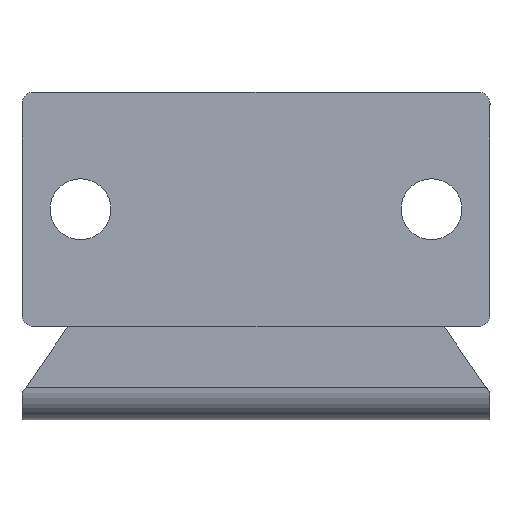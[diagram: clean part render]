
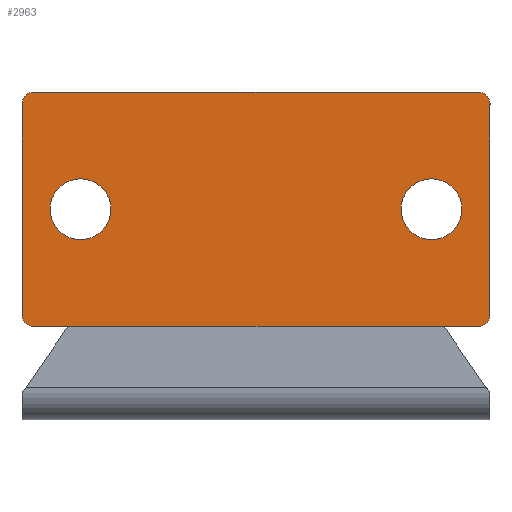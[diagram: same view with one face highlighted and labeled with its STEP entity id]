
A CAD part, left-side view. The second image highlights one B-rep face of the part: STEP entity #2963.
In plain terms, the highlighted planar face has unit normal (-1, 0, 0).
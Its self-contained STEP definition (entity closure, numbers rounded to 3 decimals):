
#10 = EDGE_CURVE ( 'NONE', #2245, #1202, #1127, .T. ) ;
#62 = CARTESIAN_POINT ( 'NONE',  ( -27.681, 243.543, 219.199 ) ) ;
#111 = CARTESIAN_POINT ( 'NONE',  ( -27.681, 246.143, 219.199 ) ) ;
#119 = ORIENTED_EDGE ( 'NONE', *, *, #10, .T. ) ;
#209 = AXIS2_PLACEMENT_3D ( 'NONE', #415, #1963, #1441 ) ;
#280 = CARTESIAN_POINT ( 'NONE',  ( -27.681, 242.143, 209.199 ) ) ;
#297 = CARTESIAN_POINT ( 'NONE',  ( -27.681, 241.143, 228.199 ) ) ;
#301 = EDGE_CURVE ( 'NONE', #733, #1976, #2960, .T. ) ;
#325 = DIRECTION ( 'NONE',  ( 1., 0., 0. ) ) ;
#387 = CARTESIAN_POINT ( 'NONE',  ( -27.681, 281.143, 228.199 ) ) ;
#392 = EDGE_CURVE ( 'NONE', #2818, #477, #2315, .T. ) ;
#395 = VERTEX_POINT ( 'NONE', #3285 ) ;
#407 = EDGE_CURVE ( 'NONE', #2908, #733, #2204, .T. ) ;
#415 = CARTESIAN_POINT ( 'NONE',  ( -27.681, 276.143, 219.199 ) ) ;
#438 = FACE_BOUND ( 'NONE', #2273, .T. ) ;
#457 = EDGE_CURVE ( 'NONE', #395, #3264, #958, .T. ) ;
#475 = EDGE_CURVE ( 'NONE', #1202, #2245, #2827, .T. ) ;
#477 = VERTEX_POINT ( 'NONE', #2003 ) ;
#486 = AXIS2_PLACEMENT_3D ( 'NONE', #3144, #1009, #744 ) ;
#500 = ORIENTED_EDGE ( 'NONE', *, *, #457, .T. ) ;
#520 = ORIENTED_EDGE ( 'NONE', *, *, #475, .T. ) ;
#522 = ORIENTED_EDGE ( 'NONE', *, *, #705, .F. ) ;
#594 = ORIENTED_EDGE ( 'NONE', *, *, #392, .F. ) ;
#630 = DIRECTION ( 'NONE',  ( 0., 1., 0. ) ) ;
#676 = AXIS2_PLACEMENT_3D ( 'NONE', #111, #2574, #1988 ) ;
#705 = EDGE_CURVE ( 'NONE', #1757, #2818, #1328, .T. ) ;
#733 = VERTEX_POINT ( 'NONE', #297 ) ;
#744 = DIRECTION ( 'NONE',  ( 0., 0., -1. ) ) ;
#792 = CARTESIAN_POINT ( 'NONE',  ( -27.681, 241.143, 210.199 ) ) ;
#819 = DIRECTION ( 'NONE',  ( 0., 0., 1. ) ) ;
#958 = CIRCLE ( 'NONE', #209, 2.6 ) ;
#1009 = DIRECTION ( 'NONE',  ( 1., 0., 0. ) ) ;
#1127 = CIRCLE ( 'NONE', #3159, 2.6 ) ;
#1191 = CARTESIAN_POINT ( 'NONE',  ( -27.681, 242.143, 229.199 ) ) ;
#1194 = CARTESIAN_POINT ( 'NONE',  ( -27.681, 242.143, 210.199 ) ) ;
#1202 = VERTEX_POINT ( 'NONE', #1886 ) ;
#1328 = LINE ( 'NONE', #1929, #1927 ) ;
#1361 = AXIS2_PLACEMENT_3D ( 'NONE', #1194, #2322, #1993 ) ;
#1406 = DIRECTION ( 'NONE',  ( 0., 1., 0. ) ) ;
#1438 = LINE ( 'NONE', #2541, #2363 ) ;
#1441 = DIRECTION ( 'NONE',  ( 0., 1., 0. ) ) ;
#1465 = DIRECTION ( 'NONE',  ( 1., 0., 0. ) ) ;
#1498 = DIRECTION ( 'NONE',  ( 0., 1., 0. ) ) ;
#1527 = CARTESIAN_POINT ( 'NONE',  ( -27.681, 246.143, 219.199 ) ) ;
#1606 = CARTESIAN_POINT ( 'NONE',  ( -27.681, 281.143, 210.199 ) ) ;
#1676 = DIRECTION ( 'NONE',  ( 0., 0., -1. ) ) ;
#1694 = AXIS2_PLACEMENT_3D ( 'NONE', #3055, #3106, #630 ) ;
#1757 = VERTEX_POINT ( 'NONE', #1606 ) ;
#1790 = EDGE_CURVE ( 'NONE', #3264, #395, #1965, .T. ) ;
#1795 = ORIENTED_EDGE ( 'NONE', *, *, #2220, .F. ) ;
#1886 = CARTESIAN_POINT ( 'NONE',  ( -27.681, 248.743, 219.199 ) ) ;
#1903 = ORIENTED_EDGE ( 'NONE', *, *, #2428, .F. ) ;
#1918 = DIRECTION ( 'NONE',  ( 0., 1., 0. ) ) ;
#1927 = VECTOR ( 'NONE', #819, 1000. ) ;
#1929 = CARTESIAN_POINT ( 'NONE',  ( -27.681, 281.143, 228.199 ) ) ;
#1963 = DIRECTION ( 'NONE',  ( 1., 0., 0. ) ) ;
#1965 = CIRCLE ( 'NONE', #3369, 2.6 ) ;
#1976 = VERTEX_POINT ( 'NONE', #792 ) ;
#1988 = DIRECTION ( 'NONE',  ( 0., 1., 0. ) ) ;
#1993 = DIRECTION ( 'NONE',  ( 0., 1., 0. ) ) ;
#2003 = CARTESIAN_POINT ( 'NONE',  ( -27.681, 280.143, 229.199 ) ) ;
#2011 = ORIENTED_EDGE ( 'NONE', *, *, #301, .F. ) ;
#2046 = VERTEX_POINT ( 'NONE', #2190 ) ;
#2081 = ORIENTED_EDGE ( 'NONE', *, *, #2684, .F. ) ;
#2190 = CARTESIAN_POINT ( 'NONE',  ( -27.681, 280.143, 209.199 ) ) ;
#2204 = CIRCLE ( 'NONE', #2945, 1. ) ;
#2220 = EDGE_CURVE ( 'NONE', #477, #2908, #1438, .T. ) ;
#2227 = EDGE_LOOP ( 'NONE', ( #500, #3018 ) ) ;
#2240 = DIRECTION ( 'NONE',  ( 0., -1., 0. ) ) ;
#2245 = VERTEX_POINT ( 'NONE', #62 ) ;
#2273 = EDGE_LOOP ( 'NONE', ( #520, #119 ) ) ;
#2296 = VERTEX_POINT ( 'NONE', #280 ) ;
#2315 = CIRCLE ( 'NONE', #3215, 1. ) ;
#2322 = DIRECTION ( 'NONE',  ( 1., 0., 0. ) ) ;
#2348 = FACE_OUTER_BOUND ( 'NONE', #3229, .T. ) ;
#2363 = VECTOR ( 'NONE', #2240, 1000. ) ;
#2385 = FACE_BOUND ( 'NONE', #2227, .T. ) ;
#2428 = EDGE_CURVE ( 'NONE', #1976, #2296, #3433, .T. ) ;
#2453 = DIRECTION ( 'NONE',  ( 1., 0., 0. ) ) ;
#2466 = ORIENTED_EDGE ( 'NONE', *, *, #3165, .F. ) ;
#2488 = DIRECTION ( 'NONE',  ( 0., 1., 0. ) ) ;
#2541 = CARTESIAN_POINT ( 'NONE',  ( -27.681, 242.143, 229.199 ) ) ;
#2565 = ORIENTED_EDGE ( 'NONE', *, *, #407, .F. ) ;
#2574 = DIRECTION ( 'NONE',  ( 1., 0., 0. ) ) ;
#2625 = CARTESIAN_POINT ( 'NONE',  ( -27.681, 273.543, 219.199 ) ) ;
#2684 = EDGE_CURVE ( 'NONE', #2296, #2046, #2727, .T. ) ;
#2710 = CARTESIAN_POINT ( 'NONE',  ( -27.681, 280.143, 209.199 ) ) ;
#2727 = LINE ( 'NONE', #2710, #3418 ) ;
#2757 = CARTESIAN_POINT ( 'NONE',  ( -27.681, 242.143, 228.199 ) ) ;
#2765 = VECTOR ( 'NONE', #1676, 1000. ) ;
#2780 = DIRECTION ( 'NONE',  ( 0., 1., 0. ) ) ;
#2813 = CARTESIAN_POINT ( 'NONE',  ( -27.681, 276.143, 219.199 ) ) ;
#2818 = VERTEX_POINT ( 'NONE', #387 ) ;
#2827 = CIRCLE ( 'NONE', #676, 2.6 ) ;
#2851 = DIRECTION ( 'NONE',  ( 1., 0., 0. ) ) ;
#2908 = VERTEX_POINT ( 'NONE', #1191 ) ;
#2945 = AXIS2_PLACEMENT_3D ( 'NONE', #2757, #325, #2488 ) ;
#2960 = LINE ( 'NONE', #3011, #2765 ) ;
#2963 = ADVANCED_FACE ( 'NONE', ( #2348, #2385, #438 ), #3424, .F. ) ;
#3011 = CARTESIAN_POINT ( 'NONE',  ( -27.681, 241.143, 210.199 ) ) ;
#3018 = ORIENTED_EDGE ( 'NONE', *, *, #1790, .T. ) ;
#3055 = CARTESIAN_POINT ( 'NONE',  ( -27.681, 280.143, 210.199 ) ) ;
#3106 = DIRECTION ( 'NONE',  ( 1., 0., 0. ) ) ;
#3144 = CARTESIAN_POINT ( 'NONE',  ( -27.681, 261.143, 219.199 ) ) ;
#3159 = AXIS2_PLACEMENT_3D ( 'NONE', #1527, #1465, #2780 ) ;
#3165 = EDGE_CURVE ( 'NONE', #2046, #1757, #3198, .T. ) ;
#3198 = CIRCLE ( 'NONE', #1694, 1. ) ;
#3215 = AXIS2_PLACEMENT_3D ( 'NONE', #3269, #2453, #1406 ) ;
#3229 = EDGE_LOOP ( 'NONE', ( #522, #2466, #2081, #1903, #2011, #2565, #1795, #594 ) ) ;
#3264 = VERTEX_POINT ( 'NONE', #2625 ) ;
#3269 = CARTESIAN_POINT ( 'NONE',  ( -27.681, 280.143, 228.199 ) ) ;
#3285 = CARTESIAN_POINT ( 'NONE',  ( -27.681, 278.743, 219.199 ) ) ;
#3369 = AXIS2_PLACEMENT_3D ( 'NONE', #2813, #2851, #1498 ) ;
#3418 = VECTOR ( 'NONE', #1918, 1000. ) ;
#3424 = PLANE ( 'NONE',  #486 ) ;
#3433 = CIRCLE ( 'NONE', #1361, 1. ) ;
